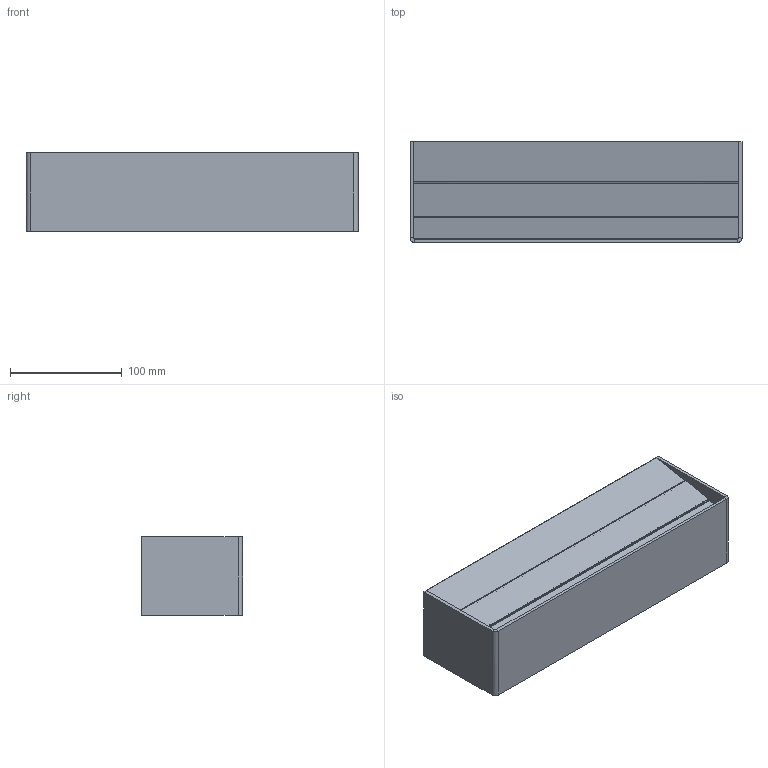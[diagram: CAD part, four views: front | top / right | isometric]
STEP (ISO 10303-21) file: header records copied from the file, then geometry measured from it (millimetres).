
FILE_DESCRIPTION(/* description */ (''),/* implementation_level */ '2;1');
FILE_NAME(/* name */ 'A-141_~2',/* time_stamp */ '2024-07-04T10:18:20+02:00',/* author */ (''),/* organization */ (''),/* preprocessor_version */ 'ST-DEVELOPER v16.5',/* originating_system */ '',/* authorisation */ '');
FILE_SCHEMA (('AUTOMOTIVE_DESIGN'));
Length unit declared in the file: millimetre
Products named in the file (1): Document
Bounding box: 296.5 x 90.24 x 70 mm (x, y, z)
Volume: 122505.4 mm3; surface area: 198420 mm2
Topology: 3 solids, 4 shells, 68 faces, 162 edges, 100 vertices
Faces by surface type: plane 40, bspline 28
Entity records: 2392 total; most frequent: CARTESIAN_POINT 1327, ORIENTED_EDGE 316, EDGE_CURVE 162, B_SPLINE_CURVE_WITH_KNOTS 118, VERTEX_POINT 100, EDGE_LOOP 70, ADVANCED_FACE 68, FACE_OUTER_BOUND 68
